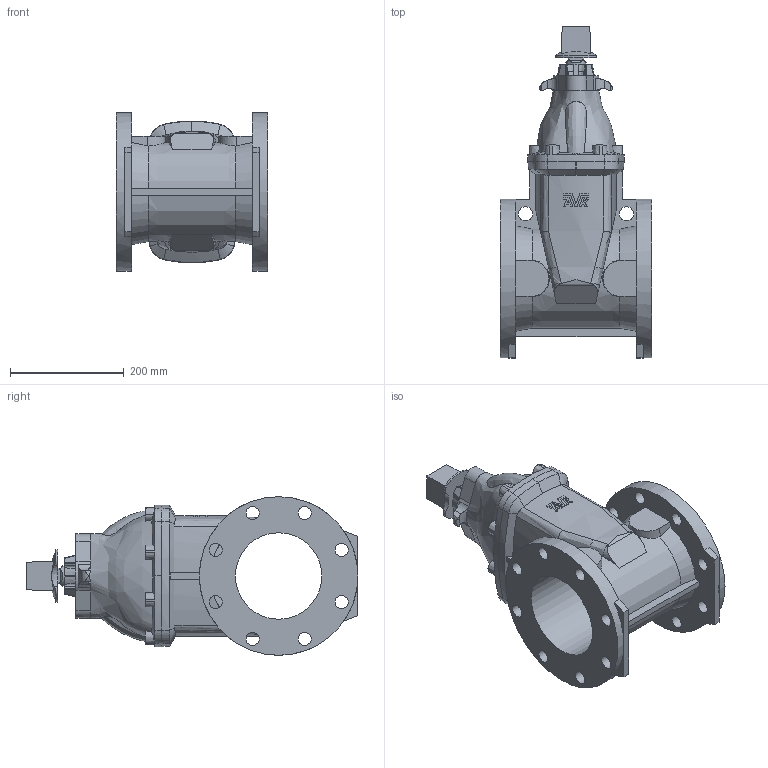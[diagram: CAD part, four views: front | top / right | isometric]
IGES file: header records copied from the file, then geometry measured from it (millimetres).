
Start section: SolidWorks IGES file using analytic representation for surfaces
Global section: file name: \\avksan2\techshare\PBM outline export from Enovia\O_45_59_DN150_X1XXX_AA1.igs; native system: SolidWorks 2012; preprocessor: SolidWorks 2012; author: pbm; date: 170922.074719; units: millimetre
Bounding box: 267 x 584.7 x 279.4 mm (x, y, z)
Surface area: 694760.7 mm2 (no closed solid volume)
Topology: 0 solids, 0 shells, 328 faces, 1846 edges, 1801 vertices
Faces by surface type: revolution 170, bspline 158
